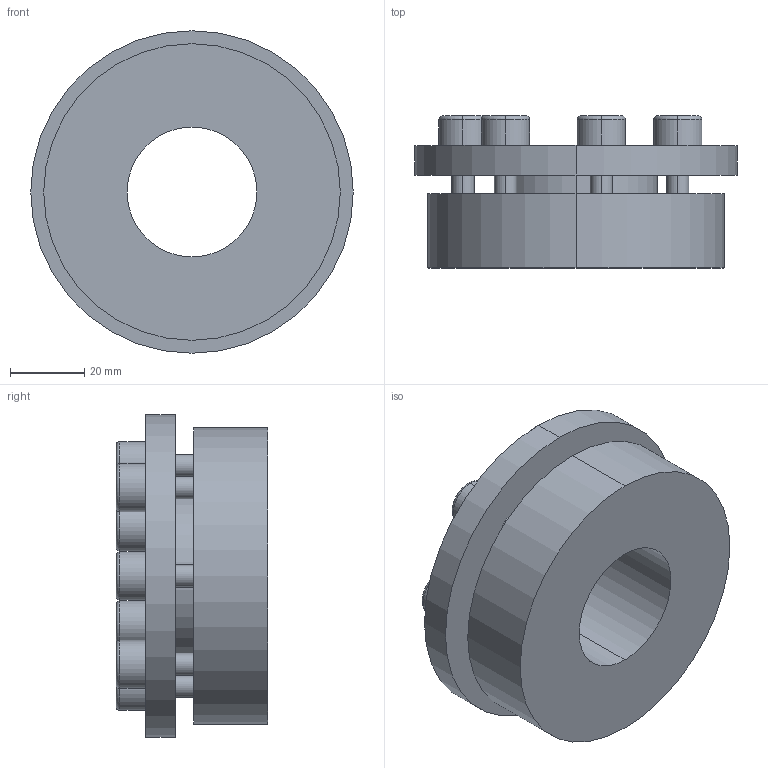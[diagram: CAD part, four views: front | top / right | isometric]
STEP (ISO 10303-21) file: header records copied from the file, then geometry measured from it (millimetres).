
FILE_DESCRIPTION (( 'STEP AP203' ), '1' );
FILE_NAME ('PL-H4 35-80.STEP', '2021-10-23T01:20:48', ( '' ), ( '' ), 'SwSTEP 2.0', 'SolidWorks 2018', '' );
FILE_SCHEMA (( 'CONFIG_CONTROL_DESIGN' ));
Length unit declared in the file: millimetre
Products named in the file (1): PL-H4 35-80
Bounding box: 87 x 41 x 87 mm (x, y, z)
Volume: 131431.7 mm3; surface area: 31517.1 mm2
Topology: 1 solids, 1 shells, 110 faces, 262 edges, 170 vertices
Faces by surface type: plane 60, cylinder 36, torus 14
Entity records: 3303 total; most frequent: DIRECTION 584, CARTESIAN_POINT 543, ORIENTED_EDGE 524, EDGE_CURVE 262, AXIS2_PLACEMENT_3D 211, VERTEX_POINT 170, LINE 162, VECTOR 162
